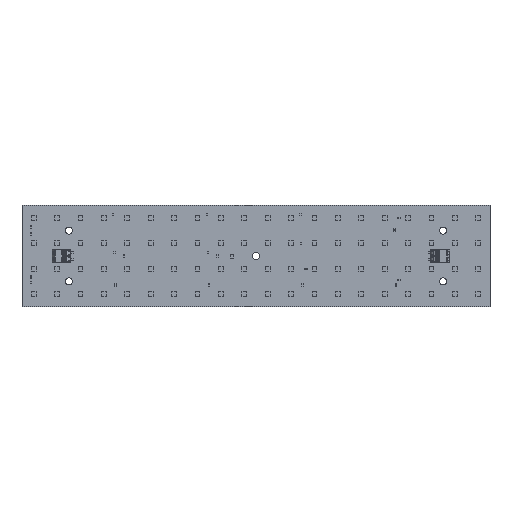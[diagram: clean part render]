
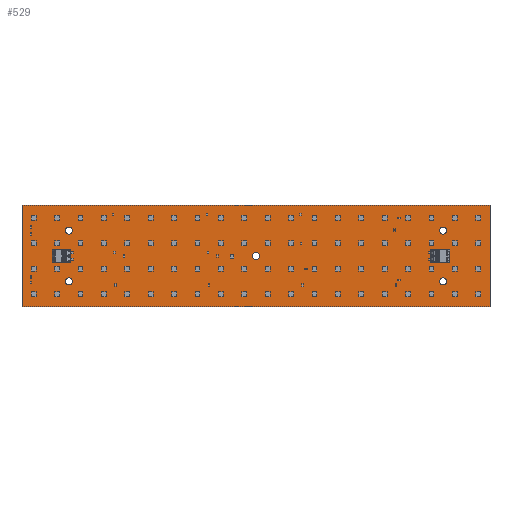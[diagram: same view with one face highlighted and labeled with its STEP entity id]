
A CAD part, top view. The second image highlights one B-rep face of the part: STEP entity #529.
In plain terms, the highlighted planar face has unit normal (0, 0, 1).
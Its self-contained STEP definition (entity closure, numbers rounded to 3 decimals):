
#152=DIRECTION('',(1.,0.,0.));
#153=VECTOR('',#152,292.1);
#154=CARTESIAN_POINT('',(0.,0.,1.6));
#155=LINE('',#154,#153);
#159=DIRECTION('',(0.,-1.,0.));
#160=VECTOR('',#159,63.5);
#161=CARTESIAN_POINT('',(0.,63.5,1.6));
#162=LINE('',#161,#160);
#166=DIRECTION('',(-1.,0.,0.));
#167=VECTOR('',#166,292.1);
#168=CARTESIAN_POINT('',(292.1,63.5,1.6));
#169=LINE('',#168,#167);
#173=DIRECTION('',(0.,1.,0.));
#174=VECTOR('',#173,63.5);
#175=CARTESIAN_POINT('',(292.1,0.,1.6));
#176=LINE('',#175,#174);
#180=CARTESIAN_POINT('',(29.21,47.625,1.6));
#181=DIRECTION('',(0.,0.,1.));
#182=DIRECTION('',(1.,0.,0.));
#183=AXIS2_PLACEMENT_3D('',#180,#181,#182);
#188=CARTESIAN_POINT('',(29.21,47.625,1.6));
#189=DIRECTION('',(0.,0.,1.));
#190=DIRECTION('',(-1.,0.,0.));
#191=AXIS2_PLACEMENT_3D('',#188,#189,#190);
#196=CARTESIAN_POINT('',(29.21,15.875,1.6));
#197=DIRECTION('',(0.,0.,1.));
#198=DIRECTION('',(1.,0.,0.));
#199=AXIS2_PLACEMENT_3D('',#196,#197,#198);
#204=CARTESIAN_POINT('',(29.21,15.875,1.6));
#205=DIRECTION('',(0.,0.,1.));
#206=DIRECTION('',(-1.,0.,0.));
#207=AXIS2_PLACEMENT_3D('',#204,#205,#206);
#212=CARTESIAN_POINT('',(262.89,15.875,1.6));
#213=DIRECTION('',(0.,0.,1.));
#214=DIRECTION('',(1.,0.,0.));
#215=AXIS2_PLACEMENT_3D('',#212,#213,#214);
#220=CARTESIAN_POINT('',(262.89,15.875,1.6));
#221=DIRECTION('',(0.,0.,1.));
#222=DIRECTION('',(-1.,0.,0.));
#223=AXIS2_PLACEMENT_3D('',#220,#221,#222);
#228=CARTESIAN_POINT('',(262.89,47.625,1.6));
#229=DIRECTION('',(0.,0.,1.));
#230=DIRECTION('',(1.,0.,0.));
#231=AXIS2_PLACEMENT_3D('',#228,#229,#230);
#236=CARTESIAN_POINT('',(262.89,47.625,1.6));
#237=DIRECTION('',(0.,0.,1.));
#238=DIRECTION('',(-1.,0.,0.));
#239=AXIS2_PLACEMENT_3D('',#236,#237,#238);
#244=CARTESIAN_POINT('',(146.05,31.75,1.6));
#245=DIRECTION('',(0.,0.,1.));
#246=DIRECTION('',(1.,0.,0.));
#247=AXIS2_PLACEMENT_3D('',#244,#245,#246);
#252=CARTESIAN_POINT('',(146.05,31.75,1.6));
#253=DIRECTION('',(0.,0.,1.));
#254=DIRECTION('',(-1.,0.,0.));
#255=AXIS2_PLACEMENT_3D('',#252,#253,#254);
#338=CARTESIAN_POINT('',(0.,0.,1.6));
#339=CARTESIAN_POINT('',(292.1,0.,1.6));
#340=VERTEX_POINT('',#338);
#341=VERTEX_POINT('',#339);
#342=CARTESIAN_POINT('',(292.1,63.5,1.6));
#343=VERTEX_POINT('',#342);
#344=CARTESIAN_POINT('',(0.,63.5,1.6));
#345=VERTEX_POINT('',#344);
#350=CARTESIAN_POINT('',(31.407,47.625,1.6));
#351=CARTESIAN_POINT('',(27.013,47.625,1.6));
#352=VERTEX_POINT('',#350);
#353=VERTEX_POINT('',#351);
#358=CARTESIAN_POINT('',(31.407,15.875,1.6));
#359=CARTESIAN_POINT('',(27.013,15.875,1.6));
#360=VERTEX_POINT('',#358);
#361=VERTEX_POINT('',#359);
#366=CARTESIAN_POINT('',(265.087,15.875,1.6));
#367=CARTESIAN_POINT('',(260.693,15.875,1.6));
#368=VERTEX_POINT('',#366);
#369=VERTEX_POINT('',#367);
#374=CARTESIAN_POINT('',(265.087,47.625,1.6));
#375=CARTESIAN_POINT('',(260.693,47.625,1.6));
#376=VERTEX_POINT('',#374);
#377=VERTEX_POINT('',#375);
#382=CARTESIAN_POINT('',(148.247,31.75,1.6));
#383=CARTESIAN_POINT('',(143.853,31.75,1.6));
#384=VERTEX_POINT('',#382);
#385=VERTEX_POINT('',#383);
#488=CARTESIAN_POINT('',(0.,0.,1.6));
#489=DIRECTION('',(0.,0.,1.));
#490=DIRECTION('',(1.,0.,0.));
#491=AXIS2_PLACEMENT_3D('',#488,#489,#490);
#492=PLANE('',#491);
#493=ORIENTED_EDGE('',*,*,#440,.F.);
#494=ORIENTED_EDGE('',*,*,#455,.F.);
#495=ORIENTED_EDGE('',*,*,#469,.F.);
#496=ORIENTED_EDGE('',*,*,#482,.F.);
#497=EDGE_LOOP('',(#493,#494,#495,#496));
#498=FACE_OUTER_BOUND('',#497,.F.);
#500=ORIENTED_EDGE('',*,*,#499,.T.);
#502=ORIENTED_EDGE('',*,*,#501,.T.);
#503=EDGE_LOOP('',(#500,#502));
#504=FACE_BOUND('',#503,.F.);
#506=ORIENTED_EDGE('',*,*,#505,.T.);
#508=ORIENTED_EDGE('',*,*,#507,.T.);
#509=EDGE_LOOP('',(#506,#508));
#510=FACE_BOUND('',#509,.F.);
#512=ORIENTED_EDGE('',*,*,#511,.T.);
#514=ORIENTED_EDGE('',*,*,#513,.T.);
#515=EDGE_LOOP('',(#512,#514));
#516=FACE_BOUND('',#515,.F.);
#518=ORIENTED_EDGE('',*,*,#517,.T.);
#520=ORIENTED_EDGE('',*,*,#519,.T.);
#521=EDGE_LOOP('',(#518,#520));
#522=FACE_BOUND('',#521,.F.);
#524=ORIENTED_EDGE('',*,*,#523,.T.);
#526=ORIENTED_EDGE('',*,*,#525,.T.);
#527=EDGE_LOOP('',(#524,#526));
#528=FACE_BOUND('',#527,.F.);
#184=CIRCLE('',#183,2.197);
#192=CIRCLE('',#191,2.197);
#200=CIRCLE('',#199,2.197);
#208=CIRCLE('',#207,2.197);
#216=CIRCLE('',#215,2.197);
#224=CIRCLE('',#223,2.197);
#232=CIRCLE('',#231,2.197);
#240=CIRCLE('',#239,2.197);
#248=CIRCLE('',#247,2.197);
#256=CIRCLE('',#255,2.197);
#440=EDGE_CURVE('',#340,#341,#155,.T.);
#455=EDGE_CURVE('',#345,#340,#162,.T.);
#469=EDGE_CURVE('',#343,#345,#169,.T.);
#482=EDGE_CURVE('',#341,#343,#176,.T.);
#499=EDGE_CURVE('',#352,#353,#184,.T.);
#501=EDGE_CURVE('',#353,#352,#192,.T.);
#505=EDGE_CURVE('',#360,#361,#200,.T.);
#507=EDGE_CURVE('',#361,#360,#208,.T.);
#511=EDGE_CURVE('',#368,#369,#216,.T.);
#513=EDGE_CURVE('',#369,#368,#224,.T.);
#517=EDGE_CURVE('',#376,#377,#232,.T.);
#519=EDGE_CURVE('',#377,#376,#240,.T.);
#523=EDGE_CURVE('',#384,#385,#248,.T.);
#525=EDGE_CURVE('',#385,#384,#256,.T.);
#529=ADVANCED_FACE('',(#498,#504,#510,#516,#522,#528),#492,.T.);
